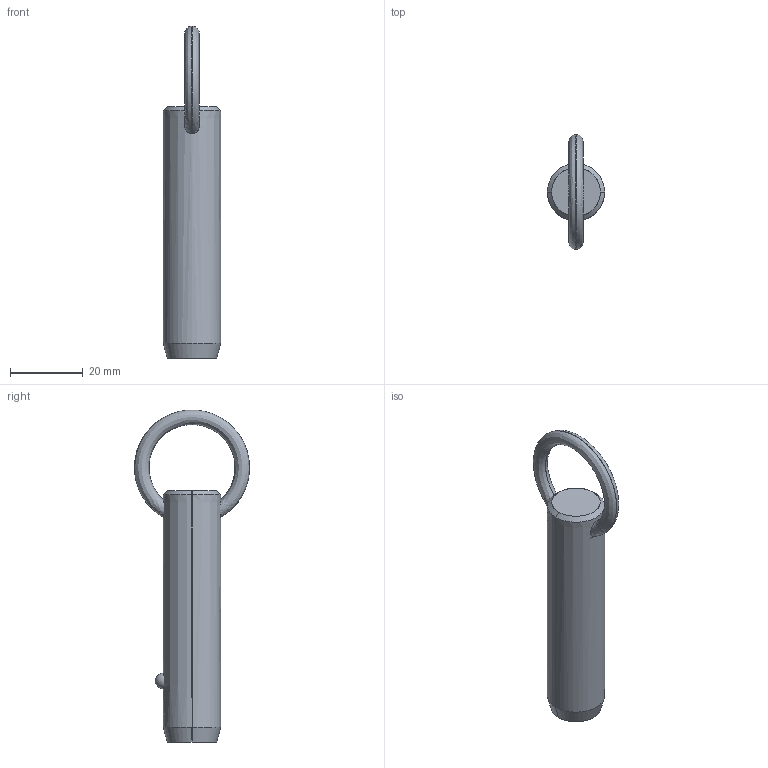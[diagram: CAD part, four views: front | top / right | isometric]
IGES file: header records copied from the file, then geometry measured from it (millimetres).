
Start section: SolidWorks IGES file using analytic representation for surfaces
Global section: file name: C:\Users\liam_\OneDrive\Documents\WORK\Work for WixRoyd\Job Files\J-00019 - Matt Davis CAD Checking\04. CAD Drawings\automotion20190605\P1250.2_v2\P1250.2_v2_20190729_IGES\P1250.062-160.igs; native system: SolidWorks 2017; preprocessor: SolidWorks 2017; author: liam_; date: 190729.233105; units: millimetre
Bounding box: 15.8 x 31.67 x 91.4 mm (x, y, z)
Surface area: 4608.7 mm2 (no closed solid volume)
Topology: 0 solids, 0 shells, 12 faces, 292 edges, 290 vertices
Faces by surface type: revolution 8, bspline 4
